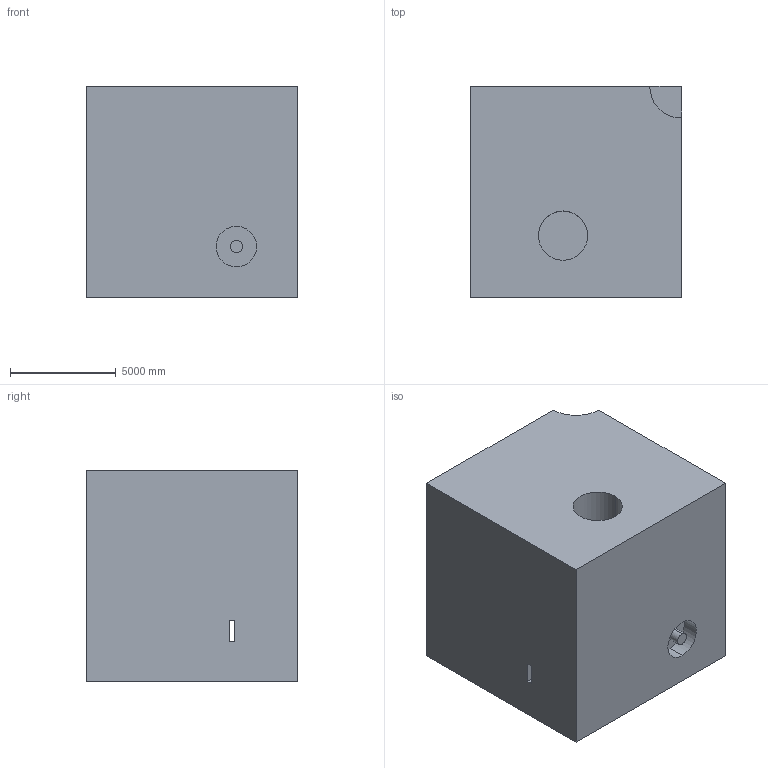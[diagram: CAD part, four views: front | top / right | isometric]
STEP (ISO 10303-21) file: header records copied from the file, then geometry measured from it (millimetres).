
FILE_DESCRIPTION (( 'STEP AP203' ), '1' );
FILE_NAME ('151.STEP', '2022-09-06T12:35:20', ( 'user' ), ( '' ), 'SwSTEP 2.0', 'SolidWorks 2021', '' );
FILE_SCHEMA (( 'CONFIG_CONTROL_DESIGN' ));
Length unit declared in the file: centimetre
Products named in the file (1): 151
Bounding box: 10000 x 10000 x 10000 mm (x, y, z)
Volume: 934108273349 mm3; surface area: 696521934.7 mm2
Topology: 1 solids, 1 shells, 28 faces, 69 edges, 46 vertices
Faces by surface type: plane 20, cylinder 8
Entity records: 910 total; most frequent: CARTESIAN_POINT 144, DIRECTION 143, ORIENTED_EDGE 138, EDGE_CURVE 69, LINE 53, VECTOR 53, VERTEX_POINT 46, AXIS2_PLACEMENT_3D 45
